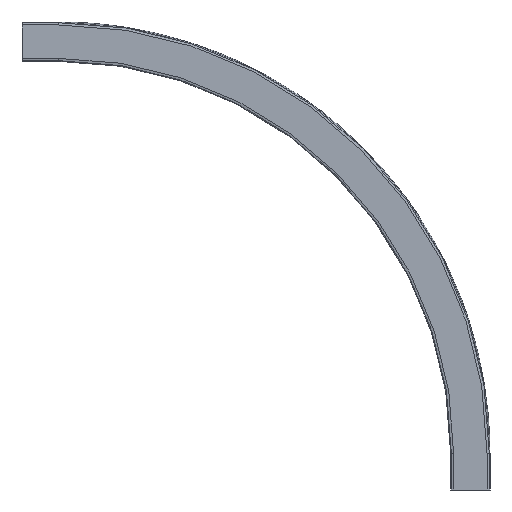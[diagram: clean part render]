
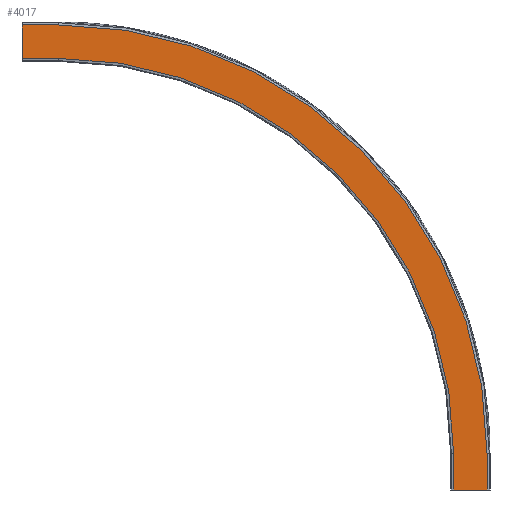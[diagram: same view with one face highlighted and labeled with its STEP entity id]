
A CAD part, front view. The second image highlights one B-rep face of the part: STEP entity #4017.
In plain terms, the highlighted planar face has unit normal (0, -1, 0).
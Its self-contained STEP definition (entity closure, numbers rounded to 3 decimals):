
#447=FACE_OUTER_BOUND('',#679,.T.);
#679=EDGE_LOOP('',(#3665,#3666,#3667,#3668,#3669,#3670,#3671,#3672));
#797=CIRCLE('',#4318,936.5);
#800=CIRCLE('',#4324,863.5);
#1154=LINE('',#7921,#1536);
#1159=LINE('',#7930,#1541);
#1161=LINE('',#7935,#1543);
#1176=LINE('',#7975,#1558);
#1181=LINE('',#7986,#1563);
#1182=LINE('',#7988,#1564);
#1536=VECTOR('',#5223,10.);
#1541=VECTOR('',#5230,10.);
#1543=VECTOR('',#5234,10.);
#1558=VECTOR('',#5275,10.);
#1563=VECTOR('',#5288,10.);
#1564=VECTOR('',#5291,10.);
#1924=VERTEX_POINT('',#7918);
#1925=VERTEX_POINT('',#7920);
#1928=VERTEX_POINT('',#7927);
#1929=VERTEX_POINT('',#7932);
#1939=VERTEX_POINT('',#7958);
#1941=VERTEX_POINT('',#7968);
#1942=VERTEX_POINT('',#7973);
#1944=VERTEX_POINT('',#7984);
#2488=EDGE_CURVE('',#1925,#1924,#1154,.T.);
#2493=EDGE_CURVE('',#1925,#1928,#1159,.T.);
#2495=EDGE_CURVE('',#1924,#1929,#1161,.T.);
#2508=EDGE_CURVE('',#1929,#1939,#797,.T.);
#2514=EDGE_CURVE('',#1928,#1941,#800,.T.);
#2516=EDGE_CURVE('',#1939,#1942,#1176,.T.);
#2521=EDGE_CURVE('',#1941,#1944,#1181,.T.);
#2522=EDGE_CURVE('',#1942,#1944,#1182,.T.);
#3665=ORIENTED_EDGE('',*,*,#2522,.T.);
#3666=ORIENTED_EDGE('',*,*,#2521,.F.);
#3667=ORIENTED_EDGE('',*,*,#2514,.F.);
#3668=ORIENTED_EDGE('',*,*,#2493,.F.);
#3669=ORIENTED_EDGE('',*,*,#2488,.T.);
#3670=ORIENTED_EDGE('',*,*,#2495,.T.);
#3671=ORIENTED_EDGE('',*,*,#2508,.T.);
#3672=ORIENTED_EDGE('',*,*,#2516,.T.);
#3810=PLANE('',#4330);
#4017=ADVANCED_FACE('',(#447),#3810,.T.);
#4318=AXIS2_PLACEMENT_3D('',#7960,#5255,#5256);
#4324=AXIS2_PLACEMENT_3D('',#7971,#5270,#5271);
#4330=AXIS2_PLACEMENT_3D('',#7987,#5289,#5290);
#5223=DIRECTION('',(1.,0.,0.));
#5230=DIRECTION('',(0.,0.,1.));
#5234=DIRECTION('',(0.,0.,1.));
#5255=DIRECTION('center_axis',(0.,-1.,0.));
#5256=DIRECTION('ref_axis',(1.,0.,0.));
#5270=DIRECTION('center_axis',(0.,-1.,0.));
#5271=DIRECTION('ref_axis',(1.,0.,0.));
#5275=DIRECTION('',(-1.,0.,0.));
#5288=DIRECTION('',(-1.,0.,0.));
#5289=DIRECTION('center_axis',(0.,-1.,0.));
#5290=DIRECTION('ref_axis',(1.,0.,0.));
#5291=DIRECTION('',(0.,0.,-1.));
#7918=CARTESIAN_POINT('',(36.5,-11.,0.));
#7920=CARTESIAN_POINT('',(-36.5,-11.,0.));
#7921=CARTESIAN_POINT('',(-36.5,-11.,0.));
#7927=CARTESIAN_POINT('',(-36.5,-11.,80.));
#7930=CARTESIAN_POINT('',(-36.5,-11.,0.));
#7932=CARTESIAN_POINT('',(36.5,-11.,80.));
#7935=CARTESIAN_POINT('',(36.5,-11.,0.));
#7958=CARTESIAN_POINT('',(-900.,-11.,1016.5));
#7960=CARTESIAN_POINT('Origin',(-900.,-11.,80.));
#7968=CARTESIAN_POINT('',(-900.,-11.,943.5));
#7971=CARTESIAN_POINT('Origin',(-900.,-11.,80.));
#7973=CARTESIAN_POINT('',(-980.,-11.,1016.5));
#7975=CARTESIAN_POINT('',(593.717,-11.,1016.5));
#7984=CARTESIAN_POINT('',(-980.,-11.,943.5));
#7986=CARTESIAN_POINT('',(593.717,-11.,943.5));
#7987=CARTESIAN_POINT('Origin',(593.717,-11.,1016.5));
#7988=CARTESIAN_POINT('',(-980.,-11.,999.75));
